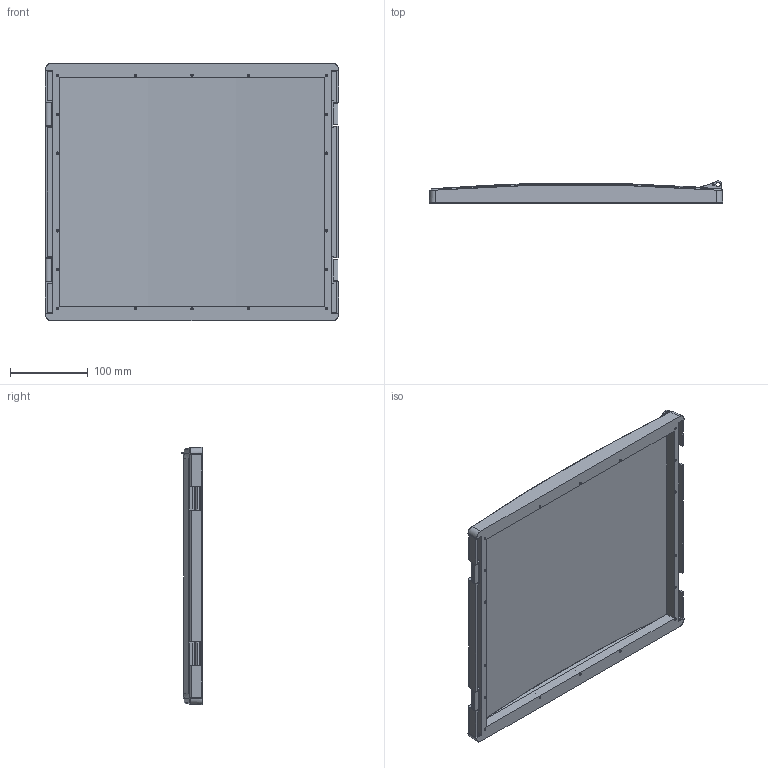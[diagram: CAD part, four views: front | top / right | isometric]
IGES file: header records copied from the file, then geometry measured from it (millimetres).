
Start section: SolidWorks IGES file using analytic representation for surfaces
Global section: file name: G:\3DRAW\EKI\3Dcam\Quick\Solidpart\FIBOX_L44II.IGS; native system: SolidWorks 2009; preprocessor: SolidWorks 2009; author: KennethW; date: 100304.131535; units: millimetre
Bounding box: 377.1 x 28.11 x 330.9 mm (x, y, z)
Surface area: 358794.2 mm2 (no closed solid volume)
Topology: 0 solids, 0 shells, 305 faces, 4194 edges, 4194 vertices
Faces by surface type: bspline 201, revolution 104
